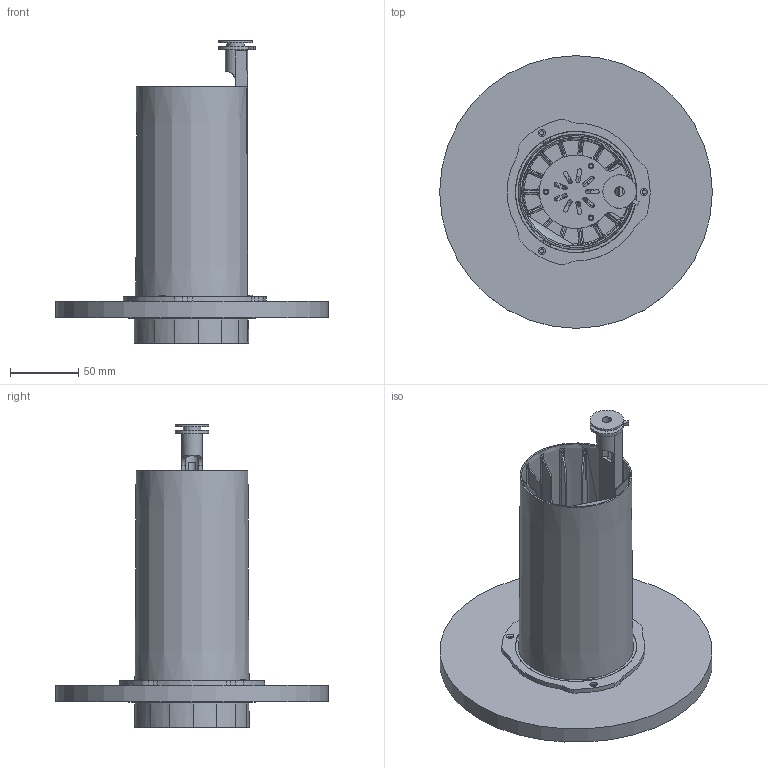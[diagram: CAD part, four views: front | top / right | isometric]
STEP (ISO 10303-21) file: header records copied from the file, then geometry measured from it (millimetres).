
FILE_DESCRIPTION(/* description */ ('STEP AP214'),/* implementation_level */ '2;1');
FILE_NAME(/* name */ 'Casto modules - Halo.step',/* time_stamp */ '2026-10-13T10:08:22+02:00',/* author */ (''),/* organization */ (''),/* preprocessor_version */ 'ST-DEVELOPER v20.2',/* originating_system */ 'Autodesk Translation Framework v15.15.0.0',/* authorisation */ '');
FILE_SCHEMA (('AUTOMOTIVE_DESIGN { 1 0 10303 214 3 1 1 }'));
Products named in the file (16): Expo wysoki UGR; expo; nypel track; DR0002489A1007_forma1; 92.70.131.00; DR0002489A1005_forma1; DR0002489A1003_forma1; 2-1674-M; DR0002489A1004_forma1; 16208807_02_(LES15).stp; 2026-08-11-08-22-23-976; 2026-10-13-09-22-10-255; 2026-08-11-09-39-23-054; 2026-08-11-07-40-30-532; 2026-08-13-05-20-13-833; 2026-08-13-03-34-55-201
Assembly tree (15 placements, depth 5):
  Expo wysoki UGR
    expo
      nypel track
      DR0002489A1007_forma1
      92.70.131.00
      DR0002489A1005_forma1
      DR0002489A1003_forma1
      2-1674-M
      DR0002489A1004_forma1
      16208807_02_(LES15).stp
    2026-08-11-08-22-23-976
    2026-10-13-09-22-10-255
      2026-08-11-09-39-23-054
      2026-08-11-07-40-30-532
        2026-08-13-05-20-13-833
          2026-08-13-03-34-55-201
Bounding box: 200 x 200 x 221.96 mm (x, y, z)
Volume: 537825.3 mm3; surface area: 283129 mm2
Topology: 14 solids, 14 shells, 1037 faces, 2881 edges, 1886 vertices
Faces by surface type: cylinder 497, plane 245, bspline 222, cone 45, torus 22, sphere 6
Full cylindrical faces by diameter (mm): 0.725 x1, 2.542 x48, 2.759 x20, 3 x1, 3.1 x3, 3.3 x74, 4 x3, 4.2 x3, 6 x1, 7 x2, 8.917 x9, 10 x11, 13 x1, 15 x2, 16.5 x1, 17.5 x1, 24.5 x1, 45 x1, 74 x1, 75 x1, 76 x1, 77.835 x14, 80 x15, 84.9 x2, 88.8 x1, 89.1 x1, 93.4 x1, 94 x1, 200 x1
Entity records: 110379 total; most frequent: CARTESIAN_POINT 85805, ORIENTED_EDGE 5760, DIRECTION 4191, EDGE_CURVE 2880, VERTEX_POINT 1886, AXIS2_PLACEMENT_3D 1583, EDGE_LOOP 1116, FACE_OUTER_BOUND 1037
